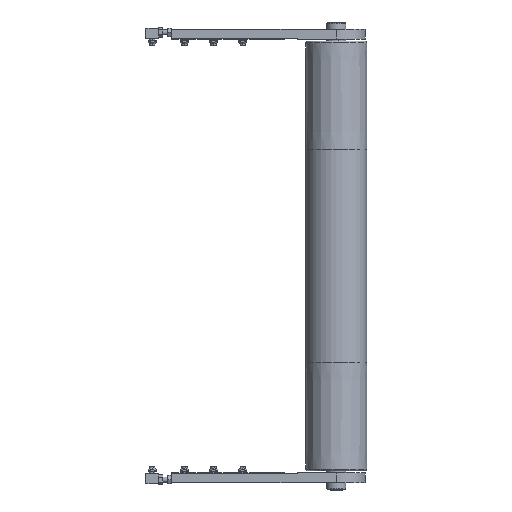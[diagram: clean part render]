
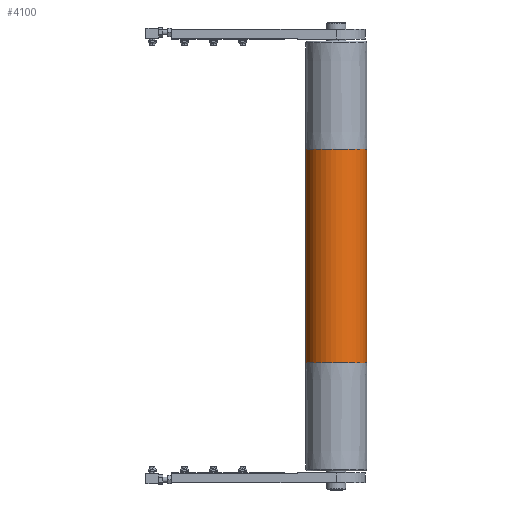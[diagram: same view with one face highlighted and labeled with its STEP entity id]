
A CAD part, front view. The second image highlights one B-rep face of the part: STEP entity #4100.
In plain terms, the highlighted cylindrical face has radius 47.5 mm (diameter 95 mm), a partial arc.
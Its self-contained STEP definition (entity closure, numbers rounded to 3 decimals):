
#383 = DIRECTION ( 'NONE',  ( -1., 0., 0. ) ) ;
#390 = EDGE_CURVE ( 'NONE', #11880, #440, #1266, .T. ) ;
#436 = AXIS2_PLACEMENT_3D ( 'NONE', #13816, #383, #7111 ) ;
#440 = VERTEX_POINT ( 'NONE', #9923 ) ;
#602 = VERTEX_POINT ( 'NONE', #10755 ) ;
#1266 = LINE ( 'NONE', #5979, #9551 ) ;
#2125 = DIRECTION ( 'NONE',  ( 1., 0., 0. ) ) ;
#2598 = DIRECTION ( 'NONE',  ( -1., 0., 0. ) ) ;
#3208 = CIRCLE ( 'NONE', #10093, 47.5 ) ;
#3450 = LINE ( 'NONE', #9339, #12064 ) ;
#4100 = ADVANCED_FACE ( 'NONE', ( #11232 ), #5265, .T. ) ;
#4117 = DIRECTION ( 'NONE',  ( 1., 0., 0. ) ) ;
#4784 = CARTESIAN_POINT ( 'NONE',  ( 165., 0., 47.5 ) ) ;
#5212 = ORIENTED_EDGE ( 'NONE', *, *, #12349, .F. ) ;
#5265 = CYLINDRICAL_SURFACE ( 'NONE', #436, 47.5 ) ;
#5979 = CARTESIAN_POINT ( 'NONE',  ( 330., 0., -47.5 ) ) ;
#6199 = CIRCLE ( 'NONE', #12458, 47.5 ) ;
#7111 = DIRECTION ( 'NONE',  ( 0., 0., 1. ) ) ;
#7783 = ORIENTED_EDGE ( 'NONE', *, *, #9647, .T. ) ;
#8504 = EDGE_CURVE ( 'NONE', #602, #440, #6199, .T. ) ;
#8869 = CARTESIAN_POINT ( 'NONE',  ( 165., 0., 0. ) ) ;
#8871 = ORIENTED_EDGE ( 'NONE', *, *, #8504, .T. ) ;
#9175 = ORIENTED_EDGE ( 'NONE', *, *, #390, .F. ) ;
#9339 = CARTESIAN_POINT ( 'NONE',  ( 330., 0., 47.5 ) ) ;
#9551 = VECTOR ( 'NONE', #11229, 1000. ) ;
#9604 = VERTEX_POINT ( 'NONE', #4784 ) ;
#9647 = EDGE_CURVE ( 'NONE', #9604, #602, #3450, .T. ) ;
#9923 = CARTESIAN_POINT ( 'NONE',  ( -165., 0., -47.5 ) ) ;
#9999 = DIRECTION ( 'NONE',  ( 0., 0., -1. ) ) ;
#10093 = AXIS2_PLACEMENT_3D ( 'NONE', #8869, #2125, #9999 ) ;
#10300 = CARTESIAN_POINT ( 'NONE',  ( 165., 0., -47.5 ) ) ;
#10755 = CARTESIAN_POINT ( 'NONE',  ( -165., 0., 47.5 ) ) ;
#10848 = CARTESIAN_POINT ( 'NONE',  ( -165., 0., 0. ) ) ;
#11229 = DIRECTION ( 'NONE',  ( -1., 0., 0. ) ) ;
#11232 = FACE_OUTER_BOUND ( 'NONE', #13065, .T. ) ;
#11880 = VERTEX_POINT ( 'NONE', #10300 ) ;
#11969 = DIRECTION ( 'NONE',  ( 0., 0., -1. ) ) ;
#12064 = VECTOR ( 'NONE', #2598, 1000. ) ;
#12349 = EDGE_CURVE ( 'NONE', #9604, #11880, #3208, .T. ) ;
#12458 = AXIS2_PLACEMENT_3D ( 'NONE', #10848, #4117, #11969 ) ;
#13065 = EDGE_LOOP ( 'NONE', ( #9175, #5212, #7783, #8871 ) ) ;
#13816 = CARTESIAN_POINT ( 'NONE',  ( 330., 0., 0. ) ) ;
